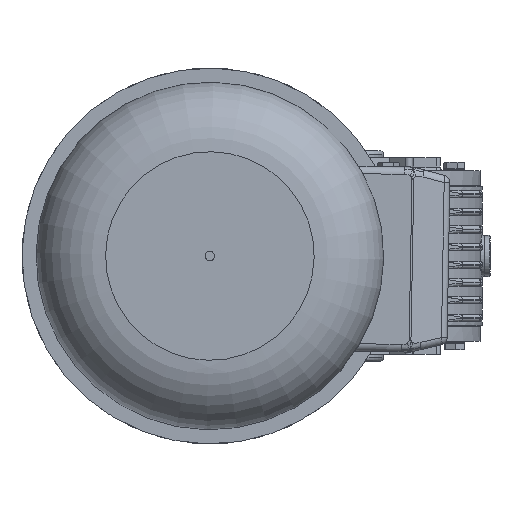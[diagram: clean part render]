
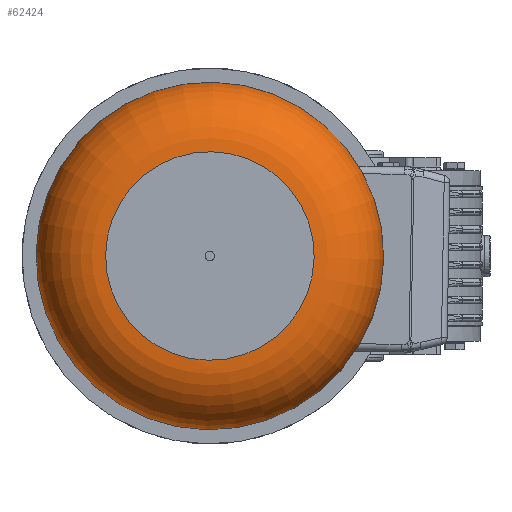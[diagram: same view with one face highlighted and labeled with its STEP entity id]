
A CAD part, left-side view. The second image highlights one B-rep face of the part: STEP entity #62424.
In plain terms, the highlighted toroidal (fillet/blend) face has major radius 55.5 mm and minor radius 37 mm.
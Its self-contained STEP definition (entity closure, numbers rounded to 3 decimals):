
#62397=CARTESIAN_POINT('',(399.,0.0,0.0));
#62398=DIRECTION('',(1.0,0.0,0.0));
#62399=DIRECTION('',(0.0,0.0,-1.0));
#62400=AXIS2_PLACEMENT_3D('',#62397,#62398,#62399);
#62401=TOROIDAL_SURFACE('',#62400,55.5,37.0);
#62402=CARTESIAN_POINT('',(436.,55.5,0.0));
#62403=VERTEX_POINT('',#62402);
#62404=CARTESIAN_POINT('',(436.,0.0,0.0));
#62405=DIRECTION('',(1.0,0.0,0.0));
#62406=DIRECTION('',(0.0,1.0,0.0));
#62407=AXIS2_PLACEMENT_3D('',#62404,#62405,#62406);
#62408=CIRCLE('',#62407,55.5);
#62409=EDGE_CURVE('',#62403,#62403,#62408,.T.);
#62410=ORIENTED_EDGE('',*,*,#62409,.F.);
#62411=EDGE_LOOP('',(#62410));
#62412=FACE_OUTER_BOUND('',#62411,.T.);
#62413=CARTESIAN_POINT('',(399.,92.5,0.0));
#62414=VERTEX_POINT('',#62413);
#62415=CARTESIAN_POINT('',(399.,0.0,0.0));
#62416=DIRECTION('',(1.0,0.0,0.0));
#62417=DIRECTION('',(0.0,1.0,0.0));
#62418=AXIS2_PLACEMENT_3D('',#62415,#62416,#62417);
#62419=CIRCLE('',#62418,92.5);
#62420=EDGE_CURVE('',#62414,#62414,#62419,.T.);
#62421=ORIENTED_EDGE('',*,*,#62420,.T.);
#62422=EDGE_LOOP('',(#62421));
#62423=FACE_BOUND('',#62422,.T.);
#62424=ADVANCED_FACE('',(#62412,#62423),#62401,.T.);
